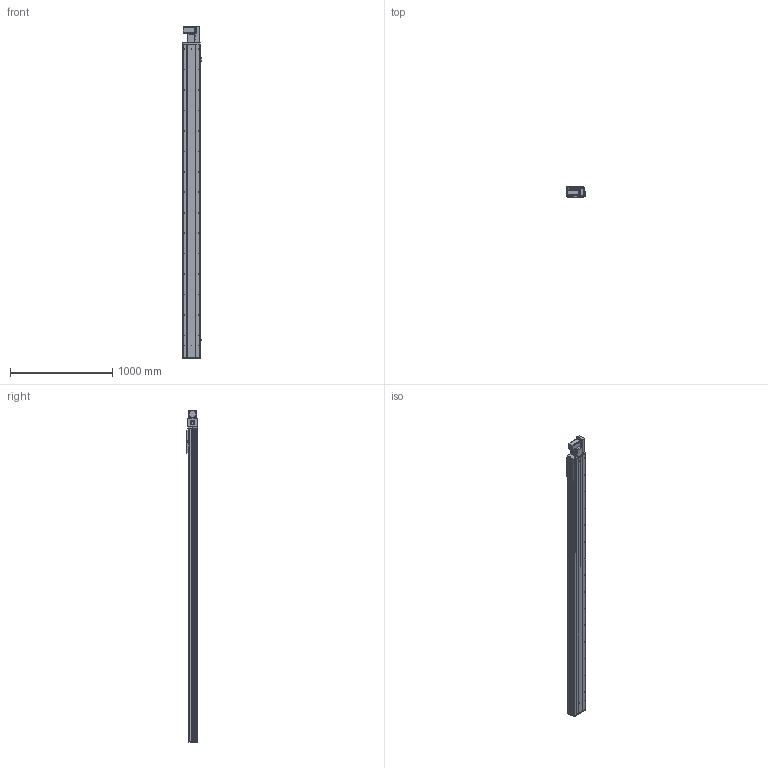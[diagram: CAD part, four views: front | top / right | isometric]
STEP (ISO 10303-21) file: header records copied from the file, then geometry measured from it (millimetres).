
FILE_DESCRIPTION (( 'STEP AP203' ), '1' );
FILE_NAME ('Y170CB-D105-S2750-BR-P400W.STEP', '2020-02-19T09:56:54', ( '微软用户' ), ( '微软中国' ), 'SwSTEP 2.0', 'SolidWorks 2017', '' );
FILE_SCHEMA (( 'CONFIG_CONTROL_DESIGN' ));
Length unit declared in the file: millimetre
Products named in the file (17): 70B喘謫眊----; B-源倛裔啣; 17B-耜蚾蟀諉啣----; 0B-萇儂楊擘啣; san松下电机400不带刹车----; Y70俋欶BR----; 70CB-掛极-; --70CB --喘謫眊楊擘啣-; 70CB-耜裔啣-; 70C--詩湍揤踡え-; 70CB--耜裔; 70C-雄赽釱-奻-; 0C--雄赽釱俋欶-170; 70CB-詩湍--; Y100-135俋离換覜ん--; Y170CB-陔俋离換覜結え---; Y170CB-D105-S2750-BR-P400W
Assembly tree (20 placements, depth 2):
  Y170CB-D105-S2750-BR-P400W
    70B喘謫眊----
    B-源倛裔啣
    17B-耜蚾蟀諉啣----
    0B-萇儂楊擘啣
    san松下电机400不带刹车----
    Y70俋欶BR----
    70CB-掛极-
    --70CB --喘謫眊楊擘啣-
    70CB-耜裔啣-  x2
    70C--詩湍揤踡え-  x2
    70CB--耜裔
    70C-雄赽釱-奻-
    0C--雄赽釱俋欶-170
    70CB-詩湍--
    Y100-135俋离換覜ん--  x3
    Y170CB-陔俋离換覜結え---
Bounding box: 183.5 x 107 x 3247 mm (x, y, z)
Volume: 13422410.7 mm3; surface area: 4842645.6 mm2
Topology: 20 solids, 20 shells, 1065 faces, 2873 edges, 1906 vertices
Faces by surface type: cylinder 579, plane 462, cone 24
Entity records: 34087 total; most frequent: CARTESIAN_POINT 6321, DIRECTION 5548, ORIENTED_EDGE 5228, EDGE_CURVE 2614, AXIS2_PLACEMENT_3D 2045, VERTEX_POINT 1736, LINE 1458, VECTOR 1458
